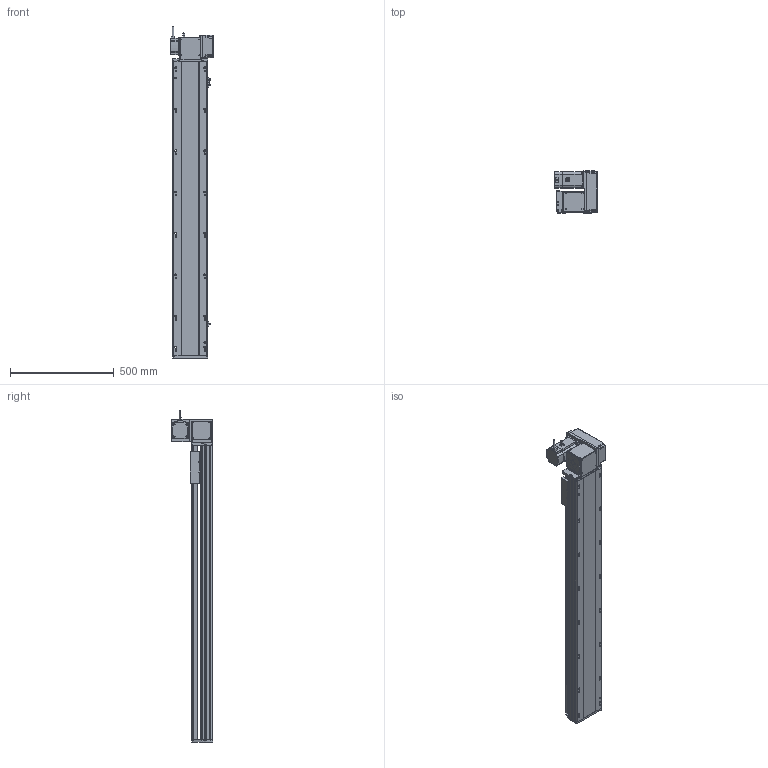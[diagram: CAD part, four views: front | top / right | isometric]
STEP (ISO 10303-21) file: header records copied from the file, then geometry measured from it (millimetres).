
FILE_DESCRIPTION (( 'STEP AP214' ), '1' );
FILE_NAME ('RTB17S-XX-1150-RW-M75-C4.STEP', '2025-12-12T02:37:01', ( '' ), ( '' ), 'SwSTEP 2.0', 'SolidWorks 2018', '' );
FILE_SCHEMA (( 'AUTOMOTIVE_DESIGN' ));
Length unit declared in the file: millimetre
Products named in the file (15): RTB22S-GY-017P^RTB17S-RW-々湍釱蚾饜-750W_RTB17S-XX-XX-RW-M75-C4; 750W萇儂^RTB17S-XX-XX-RW-M75-C4; RTB17S-L-001-耜醱啣^RTB17S-XX-XX-RW-M75-C4; RTB17S-賑釱^RTB17S-XX-XX-RW-M75-C4; RTB17S-RW-々湍釱蚾饜-750W^RTB17S-XX-XX-RW-M75-C4; RTB22S-GY-005P^RTB17S-RW-々湍釱蚾饜-750W_RTB17S-XX-XX-RW-M75-C4; RTB17S-XX-1150-RW-M75-C4; RMP17S-L-014-T20-P75--々湍釱^RTB17S-RW-々湍釱蚾饜-750W_RTB17S-XX-XX-RW-M75-C4; RTB17-R-011菁釱^RTB17S-XX-XX-RW-M75-C4; RTB17S-L-007奻裔^RTB17S-XX-XX-RW-M75-C4; RTB22S-GY-018P^RTB17S-RW-々湍釱蚾饜-750W_RTB17S-XX-XX-RW-M75-C4; EE672^RTB17S-XX-XX-RW-M75-C4; RTH13-BL-012覜茼え俋离^RTB17S-賑釱_RTB17S-XX-XX-RW-M75-C4; RTB17S-L-004-賑釱^RTB17S-賑釱_RTB17S-XX-XX-RW-M75-C4; RTB22S-GY-008-M75--萇儂啣^RTB17S-RW-々湍釱蚾饜-750W_RTB17S-XX-XX-RW-M75-C4
Assembly tree (17 placements, depth 3):
  RTB17S-XX-1150-RW-M75-C4
    RTB17-R-011菁釱^RTB17S-XX-XX-RW-M75-C4
    EE672^RTB17S-XX-XX-RW-M75-C4  x3
    RTB17S-L-001-耜醱啣^RTB17S-XX-XX-RW-M75-C4
    RTB17S-賑釱^RTB17S-XX-XX-RW-M75-C4
      RTB17S-L-004-賑釱^RTB17S-賑釱_RTB17S-XX-XX-RW-M75-C4
      RTH13-BL-012覜茼え俋离^RTB17S-賑釱_RTB17S-XX-XX-RW-M75-C4
    RTB17S-L-007奻裔^RTB17S-XX-XX-RW-M75-C4
    750W萇儂^RTB17S-XX-XX-RW-M75-C4
    RTB17S-RW-々湍釱蚾饜-750W^RTB17S-XX-XX-RW-M75-C4
      RMP17S-L-014-T20-P75--々湍釱^RTB17S-RW-々湍釱蚾饜-750W_RTB17S-XX-XX-RW-M75-C4
      RTB22S-GY-005P^RTB17S-RW-々湍釱蚾饜-750W_RTB17S-XX-XX-RW-M75-C4
      RTB22S-GY-017P^RTB17S-RW-々湍釱蚾饜-750W_RTB17S-XX-XX-RW-M75-C4  x2
      RTB22S-GY-008-M75--萇儂啣^RTB17S-RW-々湍釱蚾饜-750W_RTB17S-XX-XX-RW-M75-C4
      RTB22S-GY-018P^RTB17S-RW-々湍釱蚾饜-750W_RTB17S-XX-XX-RW-M75-C4
Bounding box: 207.4 x 201.5 x 1602.2 mm (x, y, z)
Volume: 13138812.9 mm3; surface area: 2255168.4 mm2
Topology: 17 solids, 17 shells, 2105 faces, 5836 edges, 3770 vertices
Faces by surface type: plane 972, cylinder 717, bspline 294, cone 110, sphere 8, torus 4
Entity records: 58870 total; most frequent: CARTESIAN_POINT 17300, ORIENTED_EDGE 8516, DIRECTION 7952, EDGE_CURVE 4258, AXIS2_PLACEMENT_3D 2790, VERTEX_POINT 2774, VECTOR 2372, LINE 2372
